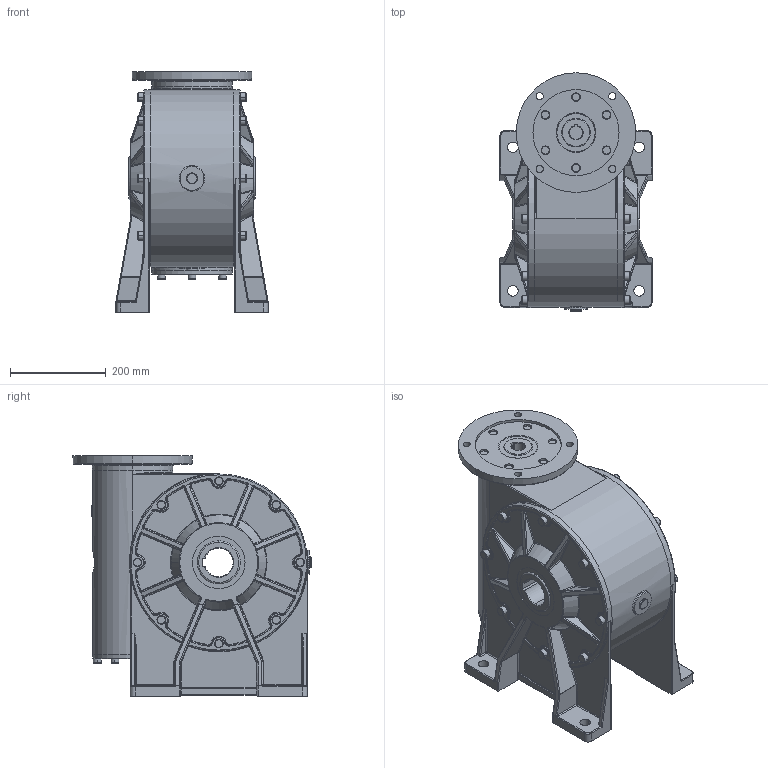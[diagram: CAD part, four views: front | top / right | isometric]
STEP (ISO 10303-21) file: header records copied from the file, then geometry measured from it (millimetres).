
FILE_DESCRIPTION (( 'STEP AP214' ), '1' );
FILE_NAME ('Sestava MRT180-V-F215.STEP', '2007-08-14T04:55:07', ( '' ), ( '' ), 'SwSTEP 2.0', 'SolidWorks 2004146', '' );
FILE_SCHEMA (( 'AUTOMOTIVE_DESIGN' ));
Length unit declared in the file: millimetre
Products named in the file (4): Mot. pøíruba 180_180-215-250; Sestava MRT180-V-F215; Patka 180_Výchozí; Skøíò180_Výchozí
Assembly tree (4 placements, depth 2):
  Sestava MRT180-V-F215
    Mot. pøíruba 180_180-215-250
    Patka 180_Výchozí  x2
    Skøíò180_Výchozí
Bounding box: 318 x 498 x 503 mm (x, y, z)
Volume: 32133099.5 mm3; surface area: 1590072.8 mm2
Topology: 4 solids, 4 shells, 1262 faces, 2964 edges, 1721 vertices
Faces by surface type: torus 381, cylinder 304, bspline 244, plane 184, sphere 104, cone 45
Entity records: 112277 total; most frequent: CARTESIAN_POINT 95666, DIRECTION 3597, ORIENTED_EDGE 3422, EDGE_CURVE 1711, AXIS2_PLACEMENT_3D 1625, VERTEX_POINT 1009, CIRCLE 1003, EDGE_LOOP 796
